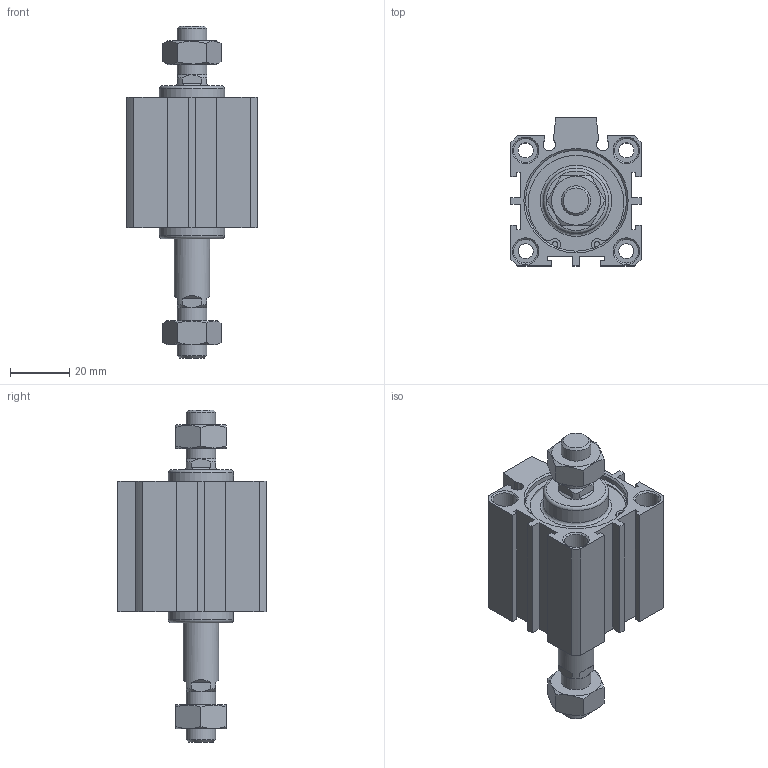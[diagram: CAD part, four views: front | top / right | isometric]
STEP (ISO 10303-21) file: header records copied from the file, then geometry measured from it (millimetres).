
FILE_DESCRIPTION((''),'2;1');
FILE_NAME('I:\3D電子目錄\氣缸\JDD\JDD-B\JDD32-B\JDD32x20-B.stp','2007-02-09T16:40:27',('662F206'),(''),'Autodesk Inventor 10','Autodesk Inventor 10','');
FILE_SCHEMA(('AUTOMOTIVE_DESIGN { 1 0 10303 214 1 1 1 1 }'));
Length unit declared in the file: millimetre
Products named in the file (3): JDD32-B; R 形環 35
Assembly tree (3 placements, depth 2):
  JDD32-B
    JDD32-B
    R 形環 35  x2
Bounding box: 44 x 50 x 112 mm (x, y, z)
Volume: 82055.2 mm3; surface area: 25403.2 mm2
Topology: 3 solids, 3 shells, 207 faces, 489 edges, 314 vertices
Faces by surface type: plane 112, cylinder 53, cone 38, bspline 2, torus 2
Full cylindrical faces by diameter (mm): 1.9 x4, 2.2 x2, 5.1 x4, 8 x8, 10 x4, 12 x1, 22 x2, 34 x4, 36 x2
Entity records: 5397 total; most frequent: CARTESIAN_POINT 1081, DIRECTION 894, ORIENTED_EDGE 802, EDGE_CURVE 401, AXIS2_PLACEMENT_3D 346, VERTEX_POINT 287, EDGE_LOOP 284, VECTOR 202
